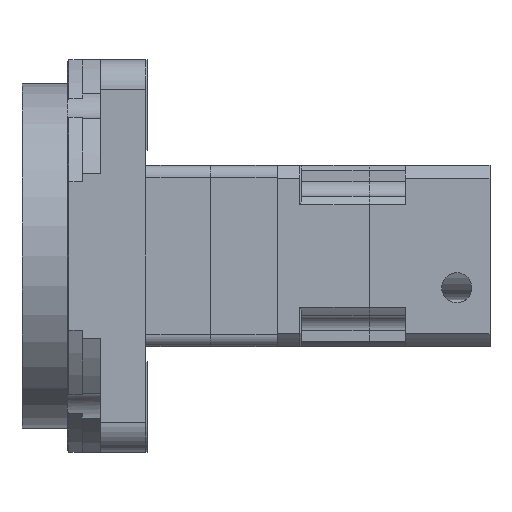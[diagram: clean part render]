
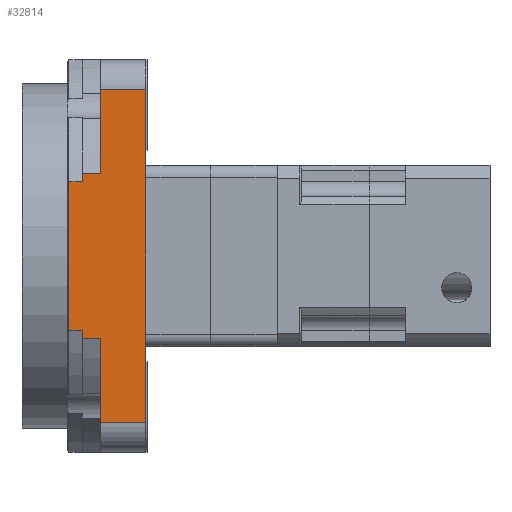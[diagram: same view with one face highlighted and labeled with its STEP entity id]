
A CAD part, left-side view. The second image highlights one B-rep face of the part: STEP entity #32814.
In plain terms, the highlighted planar face has unit normal (-1, 0, 0).
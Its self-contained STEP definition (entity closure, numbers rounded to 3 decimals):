
#217 = LINE ( 'NONE', #13622, #5605 ) ;
#890 = ORIENTED_EDGE ( 'NONE', *, *, #9756, .F. ) ;
#1108 = EDGE_CURVE ( 'NONE', #39491, #1856, #51321, .T. ) ;
#1242 = VERTEX_POINT ( 'NONE', #14129 ) ;
#1522 = CARTESIAN_POINT ( 'NONE',  ( -65., 15., 24.602 ) ) ;
#1610 = DIRECTION ( 'NONE',  ( 0., 0., 1. ) ) ;
#1856 = VERTEX_POINT ( 'NONE', #10644 ) ;
#2551 = VERTEX_POINT ( 'NONE', #24885 ) ;
#2591 = DIRECTION ( 'NONE',  ( 0., 0., 1. ) ) ;
#3419 = CARTESIAN_POINT ( 'NONE',  ( -65., 21., -55. ) ) ;
#3569 = VECTOR ( 'NONE', #30385, 1000. ) ;
#3868 = DIRECTION ( 'NONE',  ( 0., 1., 0. ) ) ;
#3869 = EDGE_CURVE ( 'NONE', #1242, #20178, #7200, .T. ) ;
#4606 = EDGE_CURVE ( 'NONE', #14546, #18093, #11270, .T. ) ;
#5358 = EDGE_CURVE ( 'NONE', #26987, #37189, #53328, .T. ) ;
#5605 = VECTOR ( 'NONE', #34324, 1000. ) ;
#6617 = EDGE_CURVE ( 'NONE', #37189, #32750, #24088, .T. ) ;
#6818 = CARTESIAN_POINT ( 'NONE',  ( -65., 0., -55. ) ) ;
#7200 = LINE ( 'NONE', #19802, #26477 ) ;
#7204 = VERTEX_POINT ( 'NONE', #28144 ) ;
#7219 = VECTOR ( 'NONE', #20179, 1000. ) ;
#7780 = FACE_OUTER_BOUND ( 'NONE', #10963, .T. ) ;
#8055 = DIRECTION ( 'NONE',  ( 1., 0., 0. ) ) ;
#8188 = ORIENTED_EDGE ( 'NONE', *, *, #1108, .F. ) ;
#9756 = EDGE_CURVE ( 'NONE', #41005, #14546, #41160, .T. ) ;
#9837 = VECTOR ( 'NONE', #23603, 1000. ) ;
#10388 = CARTESIAN_POINT ( 'NONE',  ( -65., 21., 27.299 ) ) ;
#10644 = CARTESIAN_POINT ( 'NONE',  ( -65., 15., 27.299 ) ) ;
#10963 = EDGE_LOOP ( 'NONE', ( #890, #19783, #8188, #38688, #49454, #24388, #37909, #20960, #37389, #22246, #33164, #32446 ) ) ;
#11270 = LINE ( 'NONE', #45099, #28280 ) ;
#11683 = CARTESIAN_POINT ( 'NONE',  ( -65., 0., 55. ) ) ;
#12309 = CARTESIAN_POINT ( 'NONE',  ( -65., 25.5, -24.602 ) ) ;
#13047 = CARTESIAN_POINT ( 'NONE',  ( -65., 15., 27.299 ) ) ;
#13622 = CARTESIAN_POINT ( 'NONE',  ( -65., 25.5, -55. ) ) ;
#14129 = CARTESIAN_POINT ( 'NONE',  ( -65., 21., -24.602 ) ) ;
#14546 = VERTEX_POINT ( 'NONE', #11683 ) ;
#14636 = LINE ( 'NONE', #24167, #33068 ) ;
#16155 = CARTESIAN_POINT ( 'NONE',  ( -65., 15., -55. ) ) ;
#18093 = VERTEX_POINT ( 'NONE', #6818 ) ;
#19783 = ORIENTED_EDGE ( 'NONE', *, *, #22905, .F. ) ;
#19802 = CARTESIAN_POINT ( 'NONE',  ( -65., 15., -24.602 ) ) ;
#19882 = CARTESIAN_POINT ( 'NONE',  ( -65., 15., -27.299 ) ) ;
#20178 = VERTEX_POINT ( 'NONE', #12309 ) ;
#20179 = DIRECTION ( 'NONE',  ( 0., -1., 0. ) ) ;
#20960 = ORIENTED_EDGE ( 'NONE', *, *, #27789, .F. ) ;
#22246 = ORIENTED_EDGE ( 'NONE', *, *, #5358, .F. ) ;
#22905 = EDGE_CURVE ( 'NONE', #1856, #41005, #34495, .T. ) ;
#22971 = EDGE_CURVE ( 'NONE', #18093, #26987, #14636, .T. ) ;
#23603 = DIRECTION ( 'NONE',  ( 0., 0., 1. ) ) ;
#24012 = VECTOR ( 'NONE', #38288, 1000. ) ;
#24088 = LINE ( 'NONE', #19882, #24012 ) ;
#24167 = CARTESIAN_POINT ( 'NONE',  ( -65., 15., -55. ) ) ;
#24388 = ORIENTED_EDGE ( 'NONE', *, *, #45649, .F. ) ;
#24392 = CARTESIAN_POINT ( 'NONE',  ( -65., 15., 55. ) ) ;
#24885 = CARTESIAN_POINT ( 'NONE',  ( -65., 25.5, 24.602 ) ) ;
#25956 = CARTESIAN_POINT ( 'NONE',  ( -65., 21., -27.299 ) ) ;
#26477 = VECTOR ( 'NONE', #41598, 1000. ) ;
#26987 = VERTEX_POINT ( 'NONE', #16155 ) ;
#27789 = EDGE_CURVE ( 'NONE', #32750, #1242, #38561, .T. ) ;
#28144 = CARTESIAN_POINT ( 'NONE',  ( -65., 21., 24.602 ) ) ;
#28280 = VECTOR ( 'NONE', #36163, 1000. ) ;
#30385 = DIRECTION ( 'NONE',  ( 0., -1., 0. ) ) ;
#31609 = AXIS2_PLACEMENT_3D ( 'NONE', #46356, #8055, #3868 ) ;
#32446 = ORIENTED_EDGE ( 'NONE', *, *, #4606, .F. ) ;
#32526 = LINE ( 'NONE', #3419, #48720 ) ;
#32750 = VERTEX_POINT ( 'NONE', #25956 ) ;
#32814 = ADVANCED_FACE ( 'NONE', ( #7780 ), #54724, .F. ) ;
#33068 = VECTOR ( 'NONE', #35599, 1000. ) ;
#33164 = ORIENTED_EDGE ( 'NONE', *, *, #22971, .F. ) ;
#33261 = CARTESIAN_POINT ( 'NONE',  ( -65., 15., 55. ) ) ;
#34324 = DIRECTION ( 'NONE',  ( 0., 0., 1. ) ) ;
#34495 = LINE ( 'NONE', #41211, #9837 ) ;
#35452 = CARTESIAN_POINT ( 'NONE',  ( -65., 15., -55. ) ) ;
#35599 = DIRECTION ( 'NONE',  ( 0., 1., 0. ) ) ;
#35650 = DIRECTION ( 'NONE',  ( 0., -1., 0. ) ) ;
#36163 = DIRECTION ( 'NONE',  ( 0., 0., -1. ) ) ;
#37189 = VERTEX_POINT ( 'NONE', #52264 ) ;
#37389 = ORIENTED_EDGE ( 'NONE', *, *, #6617, .F. ) ;
#37544 = VECTOR ( 'NONE', #47201, 1000. ) ;
#37909 = ORIENTED_EDGE ( 'NONE', *, *, #3869, .F. ) ;
#38280 = CARTESIAN_POINT ( 'NONE',  ( -65., 21., -55. ) ) ;
#38288 = DIRECTION ( 'NONE',  ( 0., 1., 0. ) ) ;
#38561 = LINE ( 'NONE', #38280, #37544 ) ;
#38688 = ORIENTED_EDGE ( 'NONE', *, *, #49412, .F. ) ;
#39491 = VERTEX_POINT ( 'NONE', #10388 ) ;
#39842 = LINE ( 'NONE', #1522, #49497 ) ;
#41005 = VERTEX_POINT ( 'NONE', #33261 ) ;
#41160 = LINE ( 'NONE', #24392, #7219 ) ;
#41211 = CARTESIAN_POINT ( 'NONE',  ( -65., 15., -55. ) ) ;
#41598 = DIRECTION ( 'NONE',  ( 0., 1., 0. ) ) ;
#45099 = CARTESIAN_POINT ( 'NONE',  ( -65., 0., -16.916 ) ) ;
#45649 = EDGE_CURVE ( 'NONE', #20178, #2551, #217, .T. ) ;
#46211 = VECTOR ( 'NONE', #1610, 1000. ) ;
#46356 = CARTESIAN_POINT ( 'NONE',  ( -65., 15., -55. ) ) ;
#47201 = DIRECTION ( 'NONE',  ( 0., 0., 1. ) ) ;
#48126 = EDGE_CURVE ( 'NONE', #2551, #7204, #39842, .T. ) ;
#48720 = VECTOR ( 'NONE', #2591, 1000. ) ;
#49412 = EDGE_CURVE ( 'NONE', #7204, #39491, #32526, .T. ) ;
#49454 = ORIENTED_EDGE ( 'NONE', *, *, #48126, .F. ) ;
#49497 = VECTOR ( 'NONE', #35650, 1000. ) ;
#51321 = LINE ( 'NONE', #13047, #3569 ) ;
#52264 = CARTESIAN_POINT ( 'NONE',  ( -65., 15., -27.299 ) ) ;
#53328 = LINE ( 'NONE', #35452, #46211 ) ;
#54724 = PLANE ( 'NONE',  #31609 ) ;
